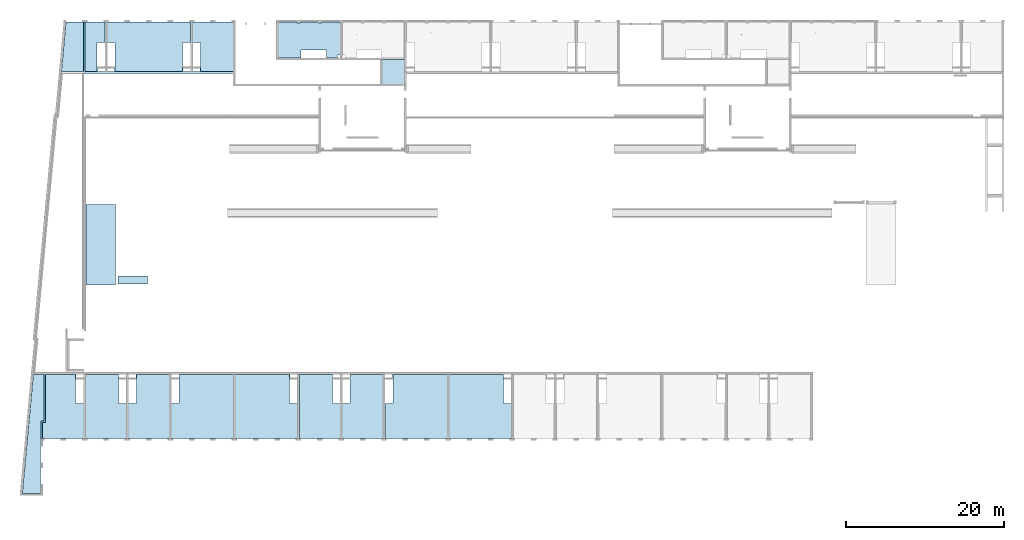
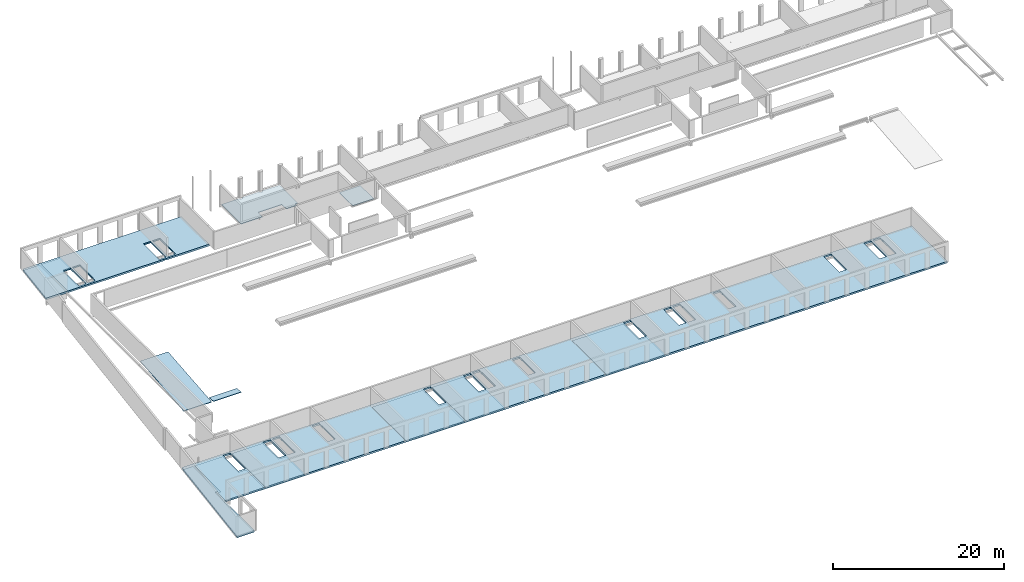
# One storey, part 6 of 18: 20 slabs, 42 openings.
"""IFC2X3 building model written with IfcOpenShell, lengths in millimetres."""

from ifc_helpers import new_model, entity, si_unit, converted_unit, derived_unit, direction, frame, frame_2d, origin, origin_2d_with_axis, place, context, subcontext, project, spatial, polyline, rectangle, circle, outline, extrude, clip, halfspace, material, layer, layer_set, layer_usage, element, save


model = new_model("IFC2X3")

# Units and contexts
model_context = context("Model", 3, precision=0.01, world=origin(), true_north=direction((6.12303176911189e-17, 1.0)))
body_context = subcontext(model_context, "Body", "Model", "MODEL_VIEW")
ifc_project = project(units=[si_unit("LENGTHUNIT", "METRE", prefix="MILLI"), si_unit("AREAUNIT", "SQUARE_METRE"), si_unit("VOLUMEUNIT", "CUBIC_METRE"), converted_unit("PLANEANGLEUNIT", "DEGREE", entity("IfcRatioMeasure", 0.0174532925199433), si_unit("PLANEANGLEUNIT", "RADIAN"), dimensions=[0, 0, 0, 0, 0, 0, 0]), si_unit("MASSUNIT", "GRAM", prefix="KILO"), derived_unit("MASSDENSITYUNIT", [(si_unit("MASSUNIT", "GRAM", prefix="KILO"), 1), (si_unit("LENGTHUNIT", "METRE"), -3)]), si_unit("TIMEUNIT", "SECOND"), si_unit("FREQUENCYUNIT", "HERTZ"), si_unit("THERMODYNAMICTEMPERATUREUNIT", "DEGREE_CELSIUS"), derived_unit("THERMALTRANSMITTANCEUNIT", [(si_unit("MASSUNIT", "GRAM", prefix="KILO"), 1), (si_unit("THERMODYNAMICTEMPERATUREUNIT", "KELVIN"), -1), (si_unit("TIMEUNIT", "SECOND"), -3)]), derived_unit("VOLUMETRICFLOWRATEUNIT", [(si_unit("LENGTHUNIT", "METRE"), 3), (si_unit("TIMEUNIT", "SECOND"), -1)]), si_unit("ELECTRICCURRENTUNIT", "AMPERE"), si_unit("ELECTRICVOLTAGEUNIT", "VOLT"), si_unit("POWERUNIT", "WATT"), si_unit("FORCEUNIT", "NEWTON", prefix="KILO"), si_unit("ILLUMINANCEUNIT", "LUX"), si_unit("LUMINOUSFLUXUNIT", "LUMEN"), si_unit("LUMINOUSINTENSITYUNIT", "CANDELA"), derived_unit("USERDEFINED", [(si_unit("MASSUNIT", "GRAM", prefix="KILO"), -1), (si_unit("LENGTHUNIT", "METRE"), -2), (si_unit("TIMEUNIT", "SECOND"), 3), (si_unit("LUMINOUSFLUXUNIT", "LUMEN"), 1)]), derived_unit("LINEARVELOCITYUNIT", [(si_unit("LENGTHUNIT", "METRE"), 1), (si_unit("TIMEUNIT", "SECOND"), -1)]), si_unit("PRESSUREUNIT", "PASCAL"), derived_unit("USERDEFINED", [(si_unit("LENGTHUNIT", "METRE"), -2), (si_unit("MASSUNIT", "GRAM", prefix="KILO"), 1), (si_unit("TIMEUNIT", "SECOND"), -2)])], contexts=[model_context])

# Site, building, storey
site_placement = place(None, origin())
site = spatial("IfcSite", under=ifc_project, at=site_placement, Name="Default", CompositionType="ELEMENT")
building_placement = place(site_placement, origin())
building = spatial("IfcBuilding", under=site, at=building_placement, Name="niet gebruiken", CompositionType="ELEMENT")
storey_placement = place(building_placement, frame((0.0, 0.0, 3690.0)))
storey = spatial("IfcBuildingStorey", under=building, at=storey_placement, Name="01 eerste verdieping", CompositionType="ELEMENT", Elevation=3690.00000000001)

# Slab, openings
ifc_material_1 = material(Name="NLRS_f2_beton ihwg")
ifc_layer_1 = layer(ifc_material_1, 250.0)
ifc_layer_set_1 = layer_set([ifc_layer_1], Name="Floor:NLRS_23.21_FL_breedplaat d=70/250_schil apart_gen")
ifc_layer_usage_1 = layer_usage(ifc_layer_set_1, "AXIS3", "POSITIVE", 0.0)
slab_1_placement = place(storey_placement, frame((5145.34736034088, 46496.0, -340.0)))
slab_1 = element("IfcSlab", 1, at=slab_1_placement, inside=storey, material=ifc_layer_usage_1, Name="Floor:NLRS_23.21_FL_breedplaat d=70/250_schil apart_gen", ObjectType="Floor:NLRS_23.21_FL_breedplaat d=70/250_schil apart_gen", PredefinedType="FLOOR", context=body_context, shape_type="SweptSolid", body=[
    extrude(outline(polyline([(10393.9668939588, 3255.0), (-10977.3263198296, 3255.0), (-10977.3263198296, -3255.0), (10997.4116251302, -3255.0), (10393.9668939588, 3255.0)])), frame((10977.3263198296, 3255.0, 250.0), z_axis=(0.0, 0.0, -1.0), x_axis=(-1.0, 0.0, 0.0)), (0.0, 0.0, 1.0), 250.0),
])
opening_1_placement = place(slab_1_placement, origin())
element("IfcOpeningElement", 2, at=opening_1_placement, cuts=slab_1, ObjectType="Opening", context=body_context, shape_type="SweptSolid", body=[
    extrude(rectangle(XDim=580.000000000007, YDim=970.0, at=origin_2d_with_axis()), frame((17064.6526396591, 540.0, 0.0), z_axis=(0.0, 0.0, 1.0), x_axis=(0.0, -1.0, 0.0)), (0.0, 0.0, 1.0), 250.0),
])
opening_2_placement = place(slab_1_placement, origin())
element("IfcOpeningElement", 3, at=opening_2_placement, cuts=slab_1, ObjectType="Opening", context=body_context, shape_type="SweptSolid", body=[
    extrude(rectangle(XDim=1000.0, YDim=3100.00000000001, at=origin_2d_with_axis()), frame((17079.6526396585, 2380.0, 0.0), z_axis=(0.0, 0.0, 1.0), x_axis=(-1.0, 0.0, 0.0)), (0.0, 0.0, 1.0), 250.0),
])
opening_3_placement = place(slab_1_placement, origin())
element("IfcOpeningElement", 4, at=opening_3_placement, cuts=slab_1, ObjectType="Opening", context=body_context, shape_type="SweptSolid", body=[
    extrude(rectangle(XDim=580.000000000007, YDim=970.0, at=origin_2d_with_axis()), frame((15844.6526396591, 540.0, 0.0), z_axis=(0.0, 0.0, 1.0), x_axis=(0.0, -1.0, 0.0)), (0.0, 0.0, 1.0), 250.0),
])
opening_4_placement = place(slab_1_placement, origin())
element("IfcOpeningElement", 5, at=opening_4_placement, cuts=slab_1, ObjectType="Opening", context=body_context, shape_type="SweptSolid", body=[
    extrude(rectangle(XDim=1000.0, YDim=3100.00000000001, at=origin_2d_with_axis()), frame((15829.6526396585, 2380.0, 0.0), z_axis=(0.0, 0.0, 1.0), x_axis=(-1.0, 0.0, 0.0)), (0.0, 0.0, 1.0), 250.0),
])
opening_5_placement = place(slab_1_placement, origin())
element("IfcOpeningElement", 6, at=opening_5_placement, cuts=slab_1, ObjectType="Opening", context=body_context, shape_type="SweptSolid", body=[
    extrude(rectangle(XDim=580.000000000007, YDim=970.000000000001, at=origin_2d_with_axis()), frame((5044.65263965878, 540.0, 0.0), z_axis=(0.0, 0.0, 1.0), x_axis=(0.0, -1.0, 0.0)), (0.0, 0.0, 1.0), 250.0),
])
opening_6_placement = place(slab_1_placement, origin())
element("IfcOpeningElement", 7, at=opening_6_placement, cuts=slab_1, ObjectType="Opening", context=body_context, shape_type="SweptSolid", body=[
    extrude(rectangle(XDim=1000.0, YDim=3100.00000000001, at=origin_2d_with_axis()), frame((5029.65263965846, 2380.0, 0.0), z_axis=(0.0, 0.0, 1.0), x_axis=(-1.0, 0.0, 0.0)), (0.0, 0.0, 1.0), 250.0),
])
opening_7_placement = place(slab_1_placement, origin())
element("IfcOpeningElement", 8, at=opening_7_placement, cuts=slab_1, ObjectType="Opening", context=body_context, shape_type="SweptSolid", body=[
    extrude(rectangle(XDim=580.000000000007, YDim=970.0, at=origin_2d_with_axis()), frame((6264.65263965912, 540.0, 0.0), z_axis=(0.0, 0.0, 1.0), x_axis=(0.0, -1.0, 0.0)), (0.0, 0.0, 1.0), 250.0),
])
opening_8_placement = place(slab_1_placement, origin())
element("IfcOpeningElement", 9, at=opening_8_placement, cuts=slab_1, ObjectType="Opening", context=body_context, shape_type="SweptSolid", body=[
    extrude(rectangle(XDim=1000.0, YDim=3100.00000000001, at=origin_2d_with_axis()), frame((6279.65263965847, 2380.0, 0.0), z_axis=(0.0, 0.0, 1.0), x_axis=(-1.0, 0.0, 0.0)), (0.0, 0.0, 1.0), 250.0),
])
opening_9_placement = place(slab_1_placement, origin())
element("IfcOpeningElement", 10, at=opening_9_placement, cuts=slab_1, ObjectType="Opening", context=body_context, shape_type="SweptSolid", body=[
    extrude(outline(polyline([(-149.332905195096, -175.0), (133.110968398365, -175.0), (133.110968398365, 175.0), (-116.889031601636, 175.0), (-149.332905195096, -175.0)])), frame((-126.158709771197, 75.0, -850.0), z_axis=(0.0, 0.0, 1.0), x_axis=(-1.0, 0.0, 0.0)), (0.0, 0.0, 1.0), 4300.0),
])
opening_10_placement = place(slab_1_placement, origin())
element("IfcOpeningElement", 11, at=opening_10_placement, cuts=slab_1, ObjectType="Opening", context=body_context, shape_type="SweptSolid", body=[
    extrude(circle(Radius=100.0, at=origin_2d_with_axis()), frame((16029.6526396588, 0.0, 20.0), z_axis=(0.0, 1.0, 0.0), x_axis=(1.0, 0.0, 0.0)), (0.0, 0.0, 1.0), 250.000000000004),
])

ifc_layer_usage_2 = layer_usage(ifc_layer_set_1, "AXIS3", "POSITIVE", 0.0)
slab_2_placement = place(storey_placement, frame((205.382258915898, -6580.0, -340.0)))
slab_2 = element("IfcSlab", 12, at=slab_2_placement, inside=storey, material=ifc_layer_usage_2, Name="Floor:NLRS_23.21_FL_breedplaat d=70/250_schil apart_gen", ObjectType="Floor:NLRS_23.21_FL_breedplaat d=70/250_schil apart_gen", PredefinedType="FLOOR", context=body_context, shape_type="SweptSolid", body=[
    extrude(outline(polyline([(50293.3272470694, -7627.45000057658), (48872.6931275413, 7698.54999942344), (-49526.2904940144, 7698.54999942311), (-49526.2904940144, -647.450000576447), (47948.7095059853, -647.450000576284), (47948.7095059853, -7627.45000057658), (50293.3272470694, -7627.45000057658)])), frame((50293.3272470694, 7627.45000057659, 250.0), z_axis=(0.0, 0.0, -1.0), x_axis=(-1.0, 0.0, 0.0)), (0.0, 0.0, 1.0), 250.0),
])
opening_11_placement = place(slab_2_placement, origin())
element("IfcOpeningElement", 13, at=opening_11_placement, cuts=slab_2, ObjectType="Opening", context=body_context, shape_type="SweptSolid", body=[
    extrude(rectangle(XDim=970.000000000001, YDim=580.000000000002, at=origin_2d_with_axis()), frame((7284.61774108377, 14786.0, 0.0)), (0.0, 0.0, 1.0), 250.0),
])
opening_12_placement = place(slab_2_placement, origin())
element("IfcOpeningElement", 14, at=opening_12_placement, cuts=slab_2, ObjectType="Opening", context=body_context, shape_type="SweptSolid", body=[
    extrude(rectangle(XDim=3100.0, YDim=1000.0, at=origin_2d_with_axis()), frame((7269.61774108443, 12946.0, 0.0), z_axis=(0.0, 0.0, 1.0), x_axis=(0.0, 1.0, 0.0)), (0.0, 0.0, 1.0), 250.0),
])
opening_13_placement = place(slab_2_placement, origin())
element("IfcOpeningElement", 15, at=opening_13_placement, cuts=slab_2, ObjectType="Opening", context=body_context, shape_type="SweptSolid", body=[
    extrude(rectangle(XDim=970.0, YDim=580.000000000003, at=origin_2d_with_axis()), frame((13904.6177410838, 14786.0, 0.0)), (0.0, 0.0, 1.0), 250.0),
])
opening_14_placement = place(slab_2_placement, origin())
element("IfcOpeningElement", 16, at=opening_14_placement, cuts=slab_2, ObjectType="Opening", context=body_context, shape_type="SweptSolid", body=[
    extrude(rectangle(XDim=3100.0, YDim=1000.0, at=origin_2d_with_axis()), frame((13919.6177410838, 12946.0, 0.0), z_axis=(0.0, 0.0, 1.0), x_axis=(0.0, 1.0, 0.0)), (0.0, 0.0, 1.0), 250.0),
])
opening_15_placement = place(slab_2_placement, origin())
element("IfcOpeningElement", 17, at=opening_15_placement, cuts=slab_2, ObjectType="Opening", context=body_context, shape_type="SweptSolid", body=[
    extrude(rectangle(XDim=970.0, YDim=580.000000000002, at=origin_2d_with_axis()), frame((12684.6177410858, 14786.0, 0.0)), (0.0, 0.0, 1.0), 250.0),
])
opening_16_placement = place(slab_2_placement, origin())
element("IfcOpeningElement", 18, at=opening_16_placement, cuts=slab_2, ObjectType="Opening", context=body_context, shape_type="SweptSolid", body=[
    extrude(rectangle(XDim=3100.0, YDim=1000.0, at=origin_2d_with_axis()), frame((12669.6177410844, 12946.0, 0.0), z_axis=(0.0, 0.0, 1.0), x_axis=(0.0, 1.0, 0.0)), (0.0, 0.0, 1.0), 250.0),
])
opening_17_placement = place(slab_2_placement, origin())
element("IfcOpeningElement", 19, at=opening_17_placement, cuts=slab_2, ObjectType="Opening", context=body_context, shape_type="SweptSolid", body=[
    extrude(rectangle(XDim=3100.0, YDim=1000.0, at=origin_2d_with_axis()), frame((19319.6177410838, 12946.0, 0.0), z_axis=(0.0, 0.0, 1.0), x_axis=(0.0, 1.0, 0.0)), (0.0, 0.0, 1.0), 250.0),
])
opening_18_placement = place(slab_2_placement, origin())
element("IfcOpeningElement", 20, at=opening_18_placement, cuts=slab_2, ObjectType="Opening", context=body_context, shape_type="SweptSolid", body=[
    extrude(rectangle(XDim=970.0, YDim=580.000000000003, at=origin_2d_with_axis()), frame((19304.6177410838, 14786.0, 0.0)), (0.0, 0.0, 1.0), 250.0),
])
opening_19_placement = place(slab_2_placement, origin())
element("IfcOpeningElement", 21, at=opening_19_placement, cuts=slab_2, ObjectType="Opening", context=body_context, shape_type="SweptSolid", body=[
    extrude(rectangle(XDim=970.0, YDim=580.000000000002, at=origin_2d_with_axis()), frame((34284.6177410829, 14786.0, 0.0)), (0.0, 0.0, 1.0), 250.0),
])
opening_20_placement = place(slab_2_placement, origin())
element("IfcOpeningElement", 22, at=opening_20_placement, cuts=slab_2, ObjectType="Opening", context=body_context, shape_type="SweptSolid", body=[
    extrude(rectangle(XDim=3100.0, YDim=1000.0, at=origin_2d_with_axis()), frame((34269.6177410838, 12946.0, 0.0), z_axis=(0.0, 0.0, 1.0), x_axis=(0.0, 1.0, 0.0)), (0.0, 0.0, 1.0), 250.0),
])
opening_21_placement = place(slab_2_placement, origin())
element("IfcOpeningElement", 23, at=opening_21_placement, cuts=slab_2, ObjectType="Opening", context=body_context, shape_type="SweptSolid", body=[
    extrude(rectangle(XDim=970.000000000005, YDim=580.000000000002, at=origin_2d_with_axis()), frame((40904.6177410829, 14786.0, 0.0)), (0.0, 0.0, 1.0), 250.0),
])
opening_22_placement = place(slab_2_placement, origin())
element("IfcOpeningElement", 24, at=opening_22_placement, cuts=slab_2, ObjectType="Opening", context=body_context, shape_type="SweptSolid", body=[
    extrude(rectangle(XDim=3100.0, YDim=999.999999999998, at=origin_2d_with_axis()), frame((40919.6177410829, 12946.0, 0.0), z_axis=(0.0, 0.0, 1.0), x_axis=(0.0, 1.0, 0.0)), (0.0, 0.0, 1.0), 250.0),
])
opening_23_placement = place(slab_2_placement, origin())
element("IfcOpeningElement", 25, at=opening_23_placement, cuts=slab_2, ObjectType="Opening", context=body_context, shape_type="SweptSolid", body=[
    extrude(rectangle(XDim=970.000000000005, YDim=580.000000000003, at=origin_2d_with_axis()), frame((39684.6177410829, 14786.0, 0.0)), (0.0, 0.0, 1.0), 250.0),
])
opening_24_placement = place(slab_2_placement, origin())
element("IfcOpeningElement", 26, at=opening_24_placement, cuts=slab_2, ObjectType="Opening", context=body_context, shape_type="SweptSolid", body=[
    extrude(rectangle(XDim=3100.0, YDim=999.999999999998, at=origin_2d_with_axis()), frame((39669.6177410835, 12946.0, 0.0), z_axis=(0.0, 0.0, 1.0), x_axis=(0.0, 1.0, 0.0)), (0.0, 0.0, 1.0), 250.0),
])
opening_25_placement = place(slab_2_placement, origin())
element("IfcOpeningElement", 27, at=opening_25_placement, cuts=slab_2, ObjectType="Opening", context=body_context, shape_type="SweptSolid", body=[
    extrude(rectangle(XDim=970.000000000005, YDim=580.000000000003, at=origin_2d_with_axis()), frame((46304.6177410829, 14786.0, 0.0)), (0.0, 0.0, 1.0), 250.0),
])
opening_26_placement = place(slab_2_placement, origin())
element("IfcOpeningElement", 28, at=opening_26_placement, cuts=slab_2, ObjectType="Opening", context=body_context, shape_type="SweptSolid", body=[
    extrude(rectangle(XDim=3100.0, YDim=999.999999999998, at=origin_2d_with_axis()), frame((46319.6177410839, 12946.0, 0.0), z_axis=(0.0, 0.0, 1.0), x_axis=(0.0, 1.0, 0.0)), (0.0, 0.0, 1.0), 250.0),
])
opening_27_placement = place(slab_2_placement, origin())
element("IfcOpeningElement", 29, at=opening_27_placement, cuts=slab_2, ObjectType="Opening", context=body_context, shape_type="SweptSolid", body=[
    extrude(rectangle(XDim=970.000000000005, YDim=580.000000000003, at=origin_2d_with_axis()), frame((61284.6177410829, 14786.0, 0.0), z_axis=(0.0, 0.0, 1.0), x_axis=(-1.0, 0.0, 0.0)), (0.0, 0.0, 1.0), 250.0),
])
opening_28_placement = place(slab_2_placement, origin())
element("IfcOpeningElement", 30, at=opening_28_placement, cuts=slab_2, ObjectType="Opening", context=body_context, shape_type="SweptSolid", body=[
    extrude(rectangle(XDim=3100.0, YDim=999.999999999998, at=origin_2d_with_axis()), frame((61269.6177410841, 12946.0, 0.0), z_axis=(0.0, 0.0, 1.0), x_axis=(0.0, 1.0, 0.0)), (0.0, 0.0, 1.0), 250.0),
])
opening_29_placement = place(slab_2_placement, origin())
element("IfcOpeningElement", 31, at=opening_29_placement, cuts=slab_2, ObjectType="Opening", context=body_context, shape_type="SweptSolid", body=[
    extrude(rectangle(XDim=970.000000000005, YDim=580.000000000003, at=origin_2d_with_axis()), frame((67904.6177410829, 14786.0, 0.0)), (0.0, 0.0, 1.0), 250.0),
])
opening_30_placement = place(slab_2_placement, origin())
element("IfcOpeningElement", 32, at=opening_30_placement, cuts=slab_2, ObjectType="Opening", context=body_context, shape_type="SweptSolid", body=[
    extrude(rectangle(XDim=3100.0, YDim=999.999999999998, at=origin_2d_with_axis()), frame((67919.6177410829, 12946.0, 0.0), z_axis=(0.0, 0.0, 1.0), x_axis=(0.0, 1.0, 0.0)), (0.0, 0.0, 1.0), 250.0),
])
opening_31_placement = place(slab_2_placement, origin())
element("IfcOpeningElement", 33, at=opening_31_placement, cuts=slab_2, ObjectType="Opening", context=body_context, shape_type="SweptSolid", body=[
    extrude(rectangle(XDim=970.000000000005, YDim=580.000000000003, at=origin_2d_with_axis()), frame((66684.6177410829, 14786.0, 0.0)), (0.0, 0.0, 1.0), 250.0),
])
opening_32_placement = place(slab_2_placement, origin())
element("IfcOpeningElement", 34, at=opening_32_placement, cuts=slab_2, ObjectType="Opening", context=body_context, shape_type="SweptSolid", body=[
    extrude(rectangle(XDim=3100.0, YDim=999.999999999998, at=origin_2d_with_axis()), frame((66669.6177410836, 12946.0, 0.0), z_axis=(0.0, 0.0, 1.0), x_axis=(0.0, 1.0, 0.0)), (0.0, 0.0, 1.0), 250.0),
])
opening_33_placement = place(slab_2_placement, origin())
element("IfcOpeningElement", 35, at=opening_33_placement, cuts=slab_2, ObjectType="Opening", context=body_context, shape_type="SweptSolid", body=[
    extrude(rectangle(XDim=970.000000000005, YDim=400.000000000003, at=origin_2d_with_axis()), frame((73304.6177410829, 14876.0, 0.0), z_axis=(0.0, 0.0, 1.0), x_axis=(-1.0, 0.0, 0.0)), (0.0, 0.0, 1.0), 250.0),
])
opening_34_placement = place(slab_2_placement, origin())
element("IfcOpeningElement", 36, at=opening_34_placement, cuts=slab_2, ObjectType="Opening", context=body_context, shape_type="SweptSolid", body=[
    extrude(rectangle(XDim=3100.0, YDim=999.999999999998, at=origin_2d_with_axis()), frame((73319.6177410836, 12946.0, 0.0), z_axis=(0.0, 0.0, 1.0), x_axis=(0.0, 1.0, 0.0)), (0.0, 0.0, 1.0), 250.0),
])
opening_35_placement = place(slab_2_placement, origin())
element("IfcOpeningElement", 37, at=opening_35_placement, cuts=slab_2, ObjectType="Opening", context=body_context, shape_type="SweptSolid", body=[
    extrude(rectangle(XDim=970.000000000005, YDim=580.000000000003, at=origin_2d_with_axis()), frame((73304.6177410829, 14786.0, 0.0)), (0.0, 0.0, 1.0), 250.0),
])
opening_36_placement = place(slab_2_placement, origin())
element("IfcOpeningElement", 38, at=opening_36_placement, cuts=slab_2, ObjectType="Opening", context=body_context, shape_type="SweptSolid", body=[
    extrude(rectangle(XDim=3100.0, YDim=999.999999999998, at=origin_2d_with_axis()), frame((88269.6177410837, 12946.0, 0.0), z_axis=(0.0, 0.0, 1.0), x_axis=(0.0, 1.0, 0.0)), (0.0, 0.0, 1.0), 250.0),
])
opening_37_placement = place(slab_2_placement, origin())
element("IfcOpeningElement", 39, at=opening_37_placement, cuts=slab_2, ObjectType="Opening", context=body_context, shape_type="SweptSolid", body=[
    extrude(rectangle(XDim=400.000000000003, YDim=970.000000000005, at=origin_2d_with_axis()), frame((88284.6177410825, 14876.0, 0.0), z_axis=(0.0, 0.0, 1.0), x_axis=(0.0, 1.0, 0.0)), (0.0, 0.0, 1.0), 250.0),
])
opening_38_placement = place(slab_2_placement, origin())
element("IfcOpeningElement", 40, at=opening_38_placement, cuts=slab_2, ObjectType="Opening", context=body_context, shape_type="SweptSolid", body=[
    extrude(rectangle(XDim=970.000000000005, YDim=580.000000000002, at=origin_2d_with_axis()), frame((88284.6177410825, 14786.0, 0.0)), (0.0, 0.0, 1.0), 250.0),
])
opening_39_placement = place(slab_2_placement, origin())
element("IfcOpeningElement", 41, at=opening_39_placement, cuts=slab_2, ObjectType="Opening", context=body_context, shape_type="SweptSolid", body=[
    extrude(rectangle(XDim=3100.0, YDim=999.999999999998, at=origin_2d_with_axis()), frame((93669.6177410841, 12946.0, 0.0), z_axis=(0.0, 0.0, 1.0), x_axis=(0.0, 1.0, 0.0)), (0.0, 0.0, 1.0), 250.0),
])
opening_40_placement = place(slab_2_placement, origin())
element("IfcOpeningElement", 42, at=opening_40_placement, cuts=slab_2, ObjectType="Opening", context=body_context, shape_type="SweptSolid", body=[
    extrude(rectangle(XDim=970.000000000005, YDim=580.000000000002, at=origin_2d_with_axis()), frame((93684.6177410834, 14786.0, 0.0)), (0.0, 0.0, 1.0), 250.0),
])
opening_41_placement = place(slab_2_placement, origin())
element("IfcOpeningElement", 43, at=opening_41_placement, cuts=slab_2, ObjectType="Opening", context=body_context, shape_type="SweptSolid", body=[
    extrude(rectangle(XDim=3100.0, YDim=999.999999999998, at=origin_2d_with_axis()), frame((94919.6177410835, 12946.0, 0.0), z_axis=(0.0, 0.0, 1.0), x_axis=(0.0, 1.0, 0.0)), (0.0, 0.0, 1.0), 250.0),
])
opening_42_placement = place(slab_2_placement, origin())
element("IfcOpeningElement", 44, at=opening_42_placement, cuts=slab_2, ObjectType="Opening", context=body_context, shape_type="SweptSolid", body=[
    extrude(rectangle(XDim=580.000000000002, YDim=970.000000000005, at=origin_2d_with_axis()), frame((94904.6177410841, 14786.0, 0.0), z_axis=(0.0, 0.0, 1.0), x_axis=(0.0, 1.0, 0.0)), (0.0, 0.0, 1.0), 250.0),
])

# Slabs
ifc_material_2 = material(Name="NLRS_f2_beton prefab")
ifc_layer_2 = layer(ifc_material_2, 70.0)
ifc_layer_set_2 = layer_set([ifc_layer_2], Name="Floor:NLRS_23.21_FL_breedplaatschil d=70_gen")
ifc_layer_usage_3 = layer_usage(ifc_layer_set_2, "AXIS3", "POSITIVE", 0.0)
slab_3_placement = place(storey_placement, origin())
element("IfcSlab", 45, at=slab_3_placement, inside=storey, material=ifc_layer_usage_3, Name="Floor:NLRS_23.21_FL_breedplaatschil d=70_gen", ObjectType="Floor:NLRS_23.21_FL_breedplaatschil d=70_gen", PredefinedType="FLOOR", context=body_context, shape_type="SweptSolid", body=[
    extrude(outline(polyline([(-280.986963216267, -7814.0), (2021.69115149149, -7814.0), (624.230627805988, 7262.0), (-720.986963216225, 7262.0), (-720.986963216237, 1386.0), (-320.986963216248, 1386.0), (-320.986963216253, -834.0), (-280.986963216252, -834.0), (-280.986963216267, -7814.0)])), frame((2249.01303678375, 1254.0, -270.0), z_axis=(0.0, 0.0, -1.0), x_axis=(-1.0, 0.0, 0.0)), (0.0, 0.0, 1.0), 69.9999999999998),
])
ifc_layer_usage_4 = layer_usage(ifc_layer_set_2, "AXIS3", "POSITIVE", 0.0)
slab_4_placement = place(storey_placement, origin())
element("IfcSlab", 46, at=slab_4_placement, inside=storey, material=ifc_layer_usage_4, Name="Floor:NLRS_23.21_FL_breedplaatschil d=70_gen", ObjectType="Floor:NLRS_23.21_FL_breedplaatschil d=70_gen", PredefinedType="FLOOR", context=body_context, shape_type="SweptSolid", body=[
    extrude(outline(polyline([(-4164.0, -3120.0), (3932.0, -3120.0), (3932.0, 1050.0), (232.0, 1050.0), (232.0, 2070.0), (-4164.0, 2070.0), (-4164.0, -3120.0)])), frame((11325.0, 4584.0, -270.0), z_axis=(0.0, 0.0, -1.0), x_axis=(0.0, 1.0, 0.0)), (0.0, 0.0, 1.0), 69.9999999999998),
])
ifc_layer_usage_5 = layer_usage(ifc_layer_set_2, "AXIS3", "POSITIVE", 0.0)
slab_5_placement = place(storey_placement, origin())
element("IfcSlab", 47, at=slab_5_placement, inside=storey, material=ifc_layer_usage_5, Name="Floor:NLRS_23.21_FL_breedplaatschil d=70_gen", ObjectType="Floor:NLRS_23.21_FL_breedplaatschil d=70_gen", PredefinedType="FLOOR", context=body_context, shape_type="SweptSolid", body=[
    extrude(outline(polyline([(-4164.0, -2070.0), (232.0, -2070.0), (232.0, -1050.0), (3932.0, -1050.0), (3932.0, 3120.0), (-4164.0, 3120.0), (-4164.0, -2070.0)])), frame((15675.0, 4584.0, -270.0), z_axis=(0.0, 0.0, -1.0), x_axis=(0.0, 1.0, 0.0)), (0.0, 0.0, 1.0), 69.9999999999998),
])
ifc_layer_usage_6 = layer_usage(ifc_layer_set_2, "AXIS3", "POSITIVE", 0.0)
slab_6_placement = place(storey_placement, origin())
element("IfcSlab", 48, at=slab_6_placement, inside=storey, material=ifc_layer_usage_6, Name="Floor:NLRS_23.21_FL_breedplaatschil d=70_gen", ObjectType="Floor:NLRS_23.21_FL_breedplaatschil d=70_gen", PredefinedType="FLOOR", context=body_context, shape_type="SweptSolid", body=[
    extrude(outline(polyline([(-4164.0, -2970.0), (232.0, -2970.0), (232.0, -1950.0), (3932.0, -1950.0), (3932.0, 4920.0), (-4164.0, 4920.0), (-4164.0, -2970.0)])), frame((21975.0, 4584.0, -270.0), z_axis=(0.0, 0.0, -1.0), x_axis=(0.0, 1.0, 0.0)), (0.0, 0.0, 1.0), 69.9999999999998),
])
ifc_layer_usage_7 = layer_usage(ifc_layer_set_2, "AXIS3", "POSITIVE", 0.0)
slab_7_placement = place(storey_placement, origin())
element("IfcSlab", 49, at=slab_7_placement, inside=storey, material=ifc_layer_usage_7, Name="Floor:NLRS_23.21_FL_breedplaatschil d=70_gen", ObjectType="Floor:NLRS_23.21_FL_breedplaatschil d=70_gen", PredefinedType="FLOOR", context=body_context, shape_type="SweptSolid", body=[
    extrude(outline(polyline([(-4164.0, -4920.0), (3932.0, -4920.0), (3932.0, 1950.0), (232.0, 1950.0), (232.0, 2970.0), (-4164.0, 2970.0), (-4164.0, -4920.0)])), frame((32025.0, 4584.0, -270.0), z_axis=(0.0, 0.0, -1.0), x_axis=(0.0, 1.0, 0.0)), (0.0, 0.0, 1.0), 69.9999999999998),
])
ifc_layer_usage_8 = layer_usage(ifc_layer_set_2, "AXIS3", "POSITIVE", 0.0)
slab_8_placement = place(storey_placement, origin())
element("IfcSlab", 50, at=slab_8_placement, inside=storey, material=ifc_layer_usage_8, Name="Floor:NLRS_23.21_FL_breedplaatschil d=70_gen", ObjectType="Floor:NLRS_23.21_FL_breedplaatschil d=70_gen", PredefinedType="FLOOR", context=body_context, shape_type="SweptSolid", body=[
    extrude(outline(polyline([(-4164.0, -3120.0), (3932.0, -3120.0), (3932.0, 1050.0), (232.0, 1050.0), (232.0, 2070.0), (-4164.0, 2070.0), (-4164.0, -3120.0)])), frame((38325.0, 4584.0, -270.0), z_axis=(0.0, 0.0, -1.0), x_axis=(0.0, 1.0, 0.0)), (0.0, 0.0, 1.0), 69.9999999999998),
])
ifc_layer_usage_9 = layer_usage(ifc_layer_set_2, "AXIS3", "POSITIVE", 0.0)
slab_9_placement = place(storey_placement, origin())
element("IfcSlab", 51, at=slab_9_placement, inside=storey, material=ifc_layer_usage_9, Name="Floor:NLRS_23.21_FL_breedplaatschil d=70_gen", ObjectType="Floor:NLRS_23.21_FL_breedplaatschil d=70_gen", PredefinedType="FLOOR", context=body_context, shape_type="SweptSolid", body=[
    extrude(outline(polyline([(-4164.0, -2070.0), (232.0, -2070.0), (232.0, -1050.0), (3932.0, -1050.0), (3932.0, 3120.0), (-4164.0, 3120.0), (-4164.0, -2070.0)])), frame((42675.0, 4584.0, -270.0), z_axis=(0.0, 0.0, -1.0), x_axis=(0.0, 1.0, 0.0)), (0.0, 0.0, 1.0), 69.9999999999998),
])
ifc_layer_usage_10 = layer_usage(ifc_layer_set_2, "AXIS3", "POSITIVE", 0.0)
slab_10_placement = place(storey_placement, origin())
element("IfcSlab", 52, at=slab_10_placement, inside=storey, material=ifc_layer_usage_10, Name="Floor:NLRS_23.21_FL_breedplaatschil d=70_gen", ObjectType="Floor:NLRS_23.21_FL_breedplaatschil d=70_gen", PredefinedType="FLOOR", context=body_context, shape_type="SweptSolid", body=[
    extrude(outline(polyline([(-4164.0, -2970.0), (232.0, -2970.0), (232.0, -1950.0), (3932.0, -1950.0), (3932.0, 4920.0), (-4164.0, 4920.0), (-4164.0, -2970.0)])), frame((48975.0, 4584.0, -270.0), z_axis=(0.0, 0.0, -1.0), x_axis=(0.0, 1.0, 0.0)), (0.0, 0.0, 1.0), 69.9999999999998),
])
ifc_layer_usage_11 = layer_usage(ifc_layer_set_2, "AXIS3", "POSITIVE", 0.0)
slab_11_placement = place(storey_placement, origin())
element("IfcSlab", 53, at=slab_11_placement, inside=storey, material=ifc_layer_usage_11, Name="Floor:NLRS_23.21_FL_breedplaatschil d=70_gen", ObjectType="Floor:NLRS_23.21_FL_breedplaatschil d=70_gen", PredefinedType="FLOOR", context=body_context, shape_type="SweptSolid", body=[
    extrude(outline(polyline([(-4164.0, -4920.0), (3932.0, -4920.0), (3932.0, 1950.0), (232.0, 1950.0), (232.0, 2970.0), (-4164.0, 2970.0), (-4164.0, -4920.0)])), frame((59025.0, 4584.0, -270.0), z_axis=(0.0, 0.0, -1.0), x_axis=(0.0, 1.0, 0.0)), (0.0, 0.0, 1.0), 69.9999999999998),
])
ifc_layer_usage_12 = layer_usage(ifc_layer_set_2, "AXIS3", "POSITIVE", 0.0)
slab_12_placement = place(storey_placement, origin())
element("IfcSlab", 54, at=slab_12_placement, inside=storey, material=ifc_layer_usage_12, Name="Floor:NLRS_23.21_FL_breedplaatschil d=70_gen", ObjectType="Floor:NLRS_23.21_FL_breedplaatschil d=70_gen", PredefinedType="FLOOR", context=body_context, shape_type="SweptSolid", body=[
    extrude(outline(polyline([(-3625.49999999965, -2452.49999999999), (-1615.49999999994, -2452.49999999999), (-1615.49999999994, -2052.5), (4470.50000000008, -2052.5), (4470.50000000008, 1742.50000000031), (770.499999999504, 1742.50000000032), (770.499999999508, 2762.49999999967), (-3625.49999999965, 2762.49999999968), (-3625.49999999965, -2452.49999999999)])), frame((5232.49999999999, 4045.49999999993, -270.0), z_axis=(0.0, 0.0, -1.0), x_axis=(0.0, 1.0, 0.0)), (0.0, 0.0, 1.0), 69.9999999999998),
])
ifc_layer_usage_13 = layer_usage(ifc_layer_set_2, "AXIS3", "POSITIVE", 0.0)
slab_13_placement = place(storey_placement, origin())
element("IfcSlab", 55, at=slab_13_placement, inside=storey, material=ifc_layer_usage_13, Name="Floor:NLRS_23.21_FL_breedplaatschil d=70_gen", ObjectType="Floor:NLRS_23.21_FL_breedplaatschil d=70_gen", PredefinedType="FLOOR", context=body_context, shape_type="SweptSolid", body=[
    extrude(outline(polyline([(-3320.0, -1350.0), (2940.0, -1350.0), (2940.0, 1185.0), (380.0, 1185.0), (380.0, 165.0), (-3320.0, 165.0), (-3320.0, -1350.0)])), frame((9510.0, 50046.0, -270.0), z_axis=(0.0, 0.0, -1.0), x_axis=(0.0, 1.0, 0.0)), (0.0, 0.0, 1.0), 69.9999999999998),
])
ifc_layer_usage_14 = layer_usage(ifc_layer_set_2, "AXIS3", "POSITIVE", 0.0)
slab_14_placement = place(storey_placement, origin())
element("IfcSlab", 56, at=slab_14_placement, inside=storey, material=ifc_layer_usage_14, Name="Floor:NLRS_23.21_FL_breedplaatschil d=70_gen", ObjectType="Floor:NLRS_23.21_FL_breedplaatschil d=70_gen", PredefinedType="FLOOR", context=body_context, shape_type="SweptSolid", body=[
    extrude(outline(polyline([(-1246.59842995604, -3130.0), (1536.73391514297, -3130.0), (956.462944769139, 3130.0), (-1246.59842995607, 3130.0), (-1246.59842995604, -3130.0)])), frame((6703.40157004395, 49856.0, -270.0), z_axis=(0.0, 0.0, -1.0), x_axis=(-1.0, 0.0, 0.0)), (0.0, 0.0, 1.0), 69.9999999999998),
])
ifc_layer_usage_15 = layer_usage(ifc_layer_set_2, "AXIS3", "POSITIVE", 0.0)
slab_15_placement = place(storey_placement, origin())
element("IfcSlab", 57, at=slab_15_placement, inside=storey, material=ifc_layer_usage_15, Name="Floor:NLRS_23.21_FL_breedplaatschil d=70_gen", ObjectType="Floor:NLRS_23.21_FL_breedplaatschil d=70_gen", PredefinedType="FLOOR", context=body_context, shape_type="SweptSolid", body=[
    extrude(outline(polyline([(285.0, -5295.0), (2845.0, -5295.0), (2845.0, 5295.0), (285.0, 5295.0), (285.0, 4275.0), (-3415.0, 4275.0), (-3415.0, -4275.0), (285.0, -4275.0), (285.0, -5295.0)])), frame((16200.0, 50141.0, -270.0), z_axis=(0.0, 0.0, -1.0), x_axis=(0.0, 1.0, 0.0)), (0.0, 0.0, 1.0), 69.9999999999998),
])
ifc_layer_usage_16 = layer_usage(ifc_layer_set_2, "AXIS3", "POSITIVE", 0.0)
slab_16_placement = place(storey_placement, origin())
element("IfcSlab", 58, at=slab_16_placement, inside=storey, material=ifc_layer_usage_16, Name="Floor:NLRS_23.21_FL_breedplaatschil d=70_gen", ObjectType="Floor:NLRS_23.21_FL_breedplaatschil d=70_gen", PredefinedType="FLOOR", context=body_context, shape_type="SweptSolid", body=[
    extrude(outline(polyline([(380.0, -2061.66666666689), (2940.0, -2061.66666666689), (2940.0, 3103.33333333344), (-3320.0, 3103.33333333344), (-3320.0, -1041.66666666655), (380.0, -1041.66666666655), (380.0, -2061.66666666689)])), frame((23766.6666666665, 50046.0, -270.0), z_axis=(0.0, 0.0, -1.0), x_axis=(0.0, 1.0, 0.0)), (0.0, 0.0, 1.0), 69.9999999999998),
])
ifc_layer_usage_17 = layer_usage(ifc_layer_set_2, "AXIS3", "POSITIVE", 0.0)
slab_17_placement = place(storey_placement, origin())
element("IfcSlab", 59, at=slab_17_placement, inside=storey, material=ifc_layer_usage_17, Name="Floor:NLRS_23.21_FL_breedplaatschil d=70_gen", ObjectType="Floor:NLRS_23.21_FL_breedplaatschil d=70_gen", PredefinedType="FLOOR", context=body_context, shape_type="SweptSolid", body=[
    extrude(outline(polyline([(-2833.0, -4781.49999999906), (1737.0, -4781.49999999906), (1737.0, -2396.50000000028), (1577.0, -2396.50000000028), (1577.0, -2026.50000000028), (1737.0, -2026.50000000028), (1737.0, 303.499999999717), (1577.0, 303.499999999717), (1577.0, 673.49999999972), (1737.0, 673.49999999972), (1737.0, 3003.49999999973), (1577.0, 3003.49999999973), (1577.0, 3083.49999999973), (-2463.0, 3083.49999999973), (-2463.0, 2713.50000000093), (-2833.0, 2713.50000000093), (-2833.0, 1313.49999999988), (-1813.0, 1313.49999999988), (-1813.0, -1886.50000000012), (-2833.0, -1886.50000000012), (-2833.0, -4781.49999999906)])), frame((37311.4999999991, 51289.0, -270.0), z_axis=(0.0, 0.0, -1.0), x_axis=(0.0, 1.0, 0.0)), (0.0, 0.0, 1.0), 69.9999999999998),
])
ifc_layer_usage_18 = layer_usage(ifc_layer_set_2, "AXIS3", "POSITIVE", 0.0)
slab_18_placement = place(storey_placement, frame((40605.0, 45136.0, -340.0)))
element("IfcSlab", 60, at=slab_18_placement, inside=storey, material=ifc_layer_usage_18, Name="Floor:NLRS_23.21_FL_breedplaatschil d=70_gen:2", ObjectType="Floor:NLRS_23.21_FL_breedplaatschil d=70_gen", PredefinedType="FLOOR", context=body_context, shape_type="SweptSolid", body=[
    extrude(rectangle(XDim=2840.0, YDim=3109.99999999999, at=frame_2d((-2525.0, -2390.0), x_axis=(1.0, 0.0))), frame((3945.0, 3945.0, 70.0), z_axis=(0.0, 0.0, -1.0), x_axis=(-1.0, 0.0, 0.0)), (0.0, 0.0, 1.0), 69.9999999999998),
])
ifc_layer_usage_19 = layer_usage(ifc_layer_set_2, "AXIS3", "POSITIVE", 0.0)
slab_19_placement = place(storey_placement, origin())
element("IfcSlab", 61, at=slab_19_placement, inside=storey, material=ifc_layer_usage_19, Name="Floor:NLRS_23.21_FL_breedplaatschil d=70_gen", ObjectType="Floor:NLRS_23.21_FL_breedplaatschil d=70_gen", PredefinedType="FLOOR", context=body_context, shape_type="Clipping", body=[
    clip(clip(extrude(rectangle(XDim=10225.3974861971, YDim=3759.99999999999, at=origin_2d_with_axis()), frame((10125.0, 24876.0, -585.477145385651), z_axis=(0.0, 0.0941257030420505, -0.995560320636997), x_axis=(0.0, 0.995560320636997, 0.0941257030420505)), (-0.0941257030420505, 0.0, 0.995560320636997), 70.6257190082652), halfspace(frame((10125.0, 19425.4411853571, -1100.80270604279), z_axis=(0.0, -0.0941257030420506, 0.995560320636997), x_axis=(0.0, -0.995560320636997, -0.0941257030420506)), False)), halfspace(frame((10125.0, 19425.4411853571, -1171.11486950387), z_axis=(0.0, 0.0941257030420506, -0.995560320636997), x_axis=(0.0, 0.995560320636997, 0.0941257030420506)), False)),
])
ifc_layer_usage_20 = layer_usage(ifc_layer_set_2, "AXIS3", "POSITIVE", 0.0)
slab_20_placement = place(storey_placement, origin())
element("IfcSlab", 62, at=slab_20_placement, inside=storey, material=ifc_layer_usage_20, Name="Floor:NLRS_23.21_FL_breedplaatschil d=70_gen", ObjectType="Floor:NLRS_23.21_FL_breedplaatschil d=70_gen", PredefinedType="FLOOR", context=body_context, shape_type="Clipping", body=[
    clip(clip(extrude(rectangle(XDim=1045.18706459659, YDim=3759.99999999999, at=origin_2d_with_axis()), frame((14175.0, 20406.0, -1198.89776118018), z_axis=(0.0, -0.0995037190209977, -0.995037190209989), x_axis=(0.0, 0.995037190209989, -0.0995037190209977)), (0.0995037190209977, 0.0, 0.995037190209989), 70.7), halfspace(frame((14175.0, 20926.0, -1250.89776118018), z_axis=(0.0, 0.0995037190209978, 0.995037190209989), x_axis=(0.0, 0.995037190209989, -0.0995037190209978)), False)), halfspace(frame((14175.0, 20926.0, -1321.24689052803), z_axis=(0.0, -0.0995037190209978, -0.995037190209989), x_axis=(0.0, -0.995037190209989, 0.0995037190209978)), False)),
])

save(model, "model.ifc")
